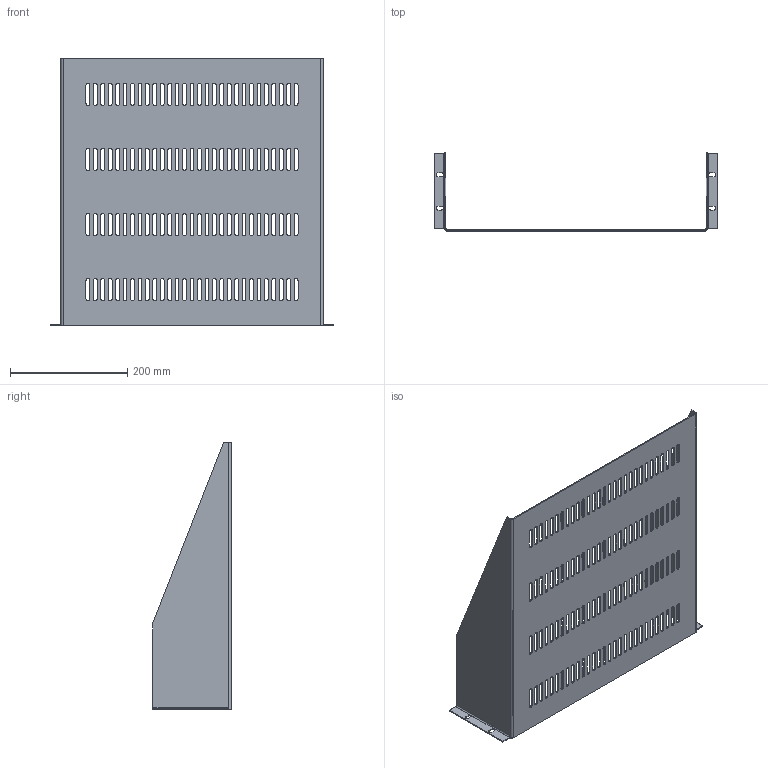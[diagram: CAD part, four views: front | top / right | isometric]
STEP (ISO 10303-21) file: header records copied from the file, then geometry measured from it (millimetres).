
FILE_DESCRIPTION (( 'STEP AP203' ), '1' );
FILE_NAME ('EMSV1918.STEP', '2017-12-18T21:19:19', ( '' ), ( '' ), 'SwSTEP 2.0', 'SolidWorks 2014', '' );
FILE_SCHEMA (( 'CONFIG_CONTROL_DESIGN' ));
Length unit declared in the file: inch
Products named in the file (2): 87780322; EMSV1918
Assembly tree (1 placements, depth 2):
  EMSV1918
    87780322
Bounding box: 482.6 x 133.35 x 457.2 mm (x, y, z)
Volume: 481663.8 mm3; surface area: 548729.9 mm2
Topology: 1 solids, 1 shells, 642 faces, 1890 edges, 1250 vertices
Faces by surface type: cylinder 368, plane 274
Entity records: 22292 total; most frequent: DIRECTION 3920, CARTESIAN_POINT 3786, ORIENTED_EDGE 3780, EDGE_CURVE 1890, AXIS2_PLACEMENT_3D 1384, VERTEX_POINT 1250, VECTOR 1152, LINE 1152
